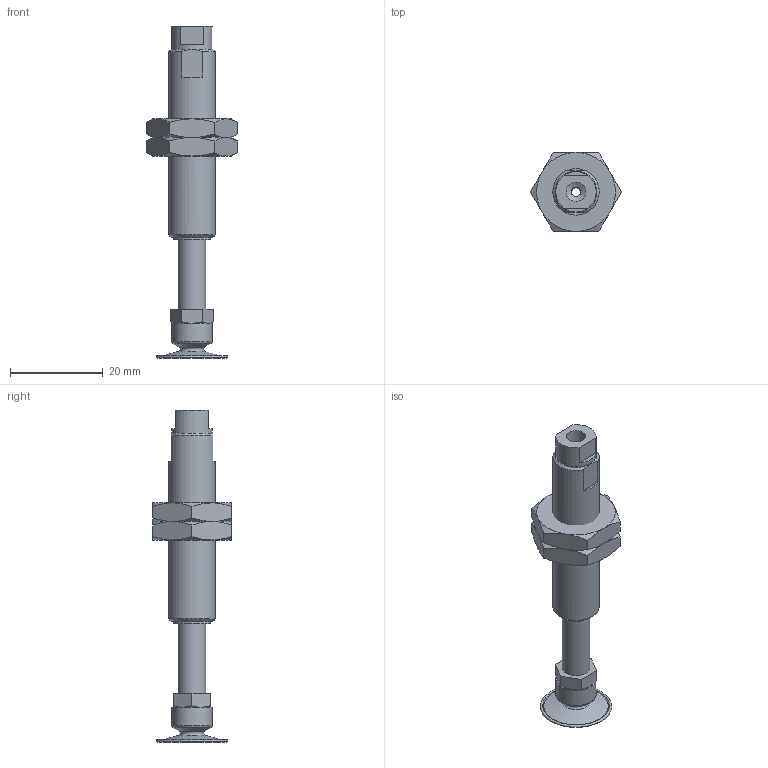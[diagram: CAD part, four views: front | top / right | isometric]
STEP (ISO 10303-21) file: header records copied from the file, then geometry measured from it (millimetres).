
FILE_DESCRIPTION(('STEP AP203'),'1');
FILE_NAME('-LB.stp','2025-10-10T05:19:49',(' '),(' '),'Spatial InterOp 3D',' ',' ');
FILE_SCHEMA(('CONFIG_CONTROL_DESIGN'));
Length unit declared in the file: millimetre
Products named in the file (8): BNAPFTH-10A-15-※-LB; NUT; __; BODY; TN-PS-10-M5; Setting screws-TN-PS-10-M5; BPAG-15B
Assembly tree (7 placements, depth 3):
  BNAPFTH-10A-15-※-LB
    NUT
    NUT
    __
    BODY
    TN-PS-10-M5
      Setting screws-TN-PS-10-M5
    BPAG-15B
Bounding box: 19.63 x 17 x 71.5 mm (x, y, z)
Volume: 5608.1 mm3; surface area: 4907.5 mm2
Topology: 6 solids, 6 shells, 168 faces, 377 edges, 229 vertices
Faces by surface type: plane 78, cone 50, cylinder 31, torus 9
Full cylindrical faces by diameter (mm): 2 x3, 3.9 x1, 4 x2, 4.2 x2, 5 x1, 6 x3, 8 x1, 8.5 x1, 8.7 x2, 9 x2, 10 x1
Entity records: 4898 total; most frequent: CARTESIAN_POINT 1032, DIRECTION 728, ORIENTED_EDGE 654, EDGE_CURVE 327, AXIS2_PLACEMENT_3D 303, EDGE_LOOP 226, VERTEX_POINT 217, FACE_OUTER_BOUND 196
